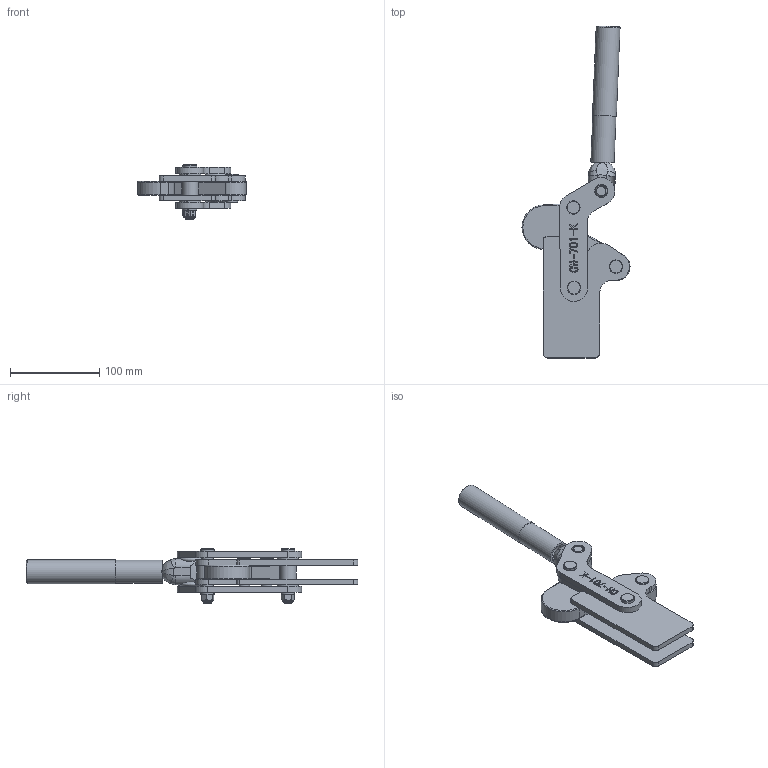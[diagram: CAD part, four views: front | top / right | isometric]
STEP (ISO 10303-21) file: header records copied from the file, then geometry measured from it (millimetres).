
FILE_DESCRIPTION(/* description */ ('STEP AP203'),/* implementation_level */ '2;1');
FILE_NAME(/* name */ 'D:\Vault_2016\Projekty\NASZ KATALOG\CLAMPTEK\STRONA\Heavy duty weldables\CH-701-K\CH-701-K_ZAMKNIETY.stp',/* time_stamp */ '2019-01-14T14:04:40+01:00',/* author */ ('CADENGINEERING4'),/* organization */ ('Î¢ÈíÖÐ¹ú'),/* preprocessor_version */ 'ST-DEVELOPER v17.2',/* originating_system */ 'Autodesk Inventor 2019',/* authorisation */ '');
FILE_SCHEMA (('AUTOMOTIVE_DESIGN { 1 0 10303 214 3 1 1 }'));
Length unit declared in the file: millimetre
Products named in the file (14): CH-701-K_ZAMKNIETY; 702-K-08_Ä¬ÈÏ; 702-K-03_Ä¬ÈÏ; 702-K-06_Ä¬ÈÏ; 702-K-10_Ä¬ÈÏ; 702-K-12_Ä¬ÈÏ; 702-K-13_Ä¬ÈÏ; 702-K-14_Ä¬ÈÏ; 701-K-04_Ä¬ÈÏ; 702-K-15_Ä¬ÈÏ; 702-K-09_Ä¬ÈÏ; 702-K-05_Ä¬ÈÏ; 702-K-07_Ä¬ÈÏ; 701-K-01_Ä¬ÈÏ
Assembly tree (19 placements, depth 2):
  CH-701-K_ZAMKNIETY
    702-K-08_Ä¬ÈÏ
    702-K-03_Ä¬ÈÏ
    702-K-06_Ä¬ÈÏ  x2
    702-K-14_Ä¬ÈÏ  x2
    702-K-15_Ä¬ÈÏ  x2
    702-K-12_Ä¬ÈÏ  x2
    702-K-13_Ä¬ÈÏ  x2
    702-K-10_Ä¬ÈÏ
    702-K-07_Ä¬ÈÏ  x2
    701-K-04_Ä¬ÈÏ
    702-K-09_Ä¬ÈÏ
    702-K-05_Ä¬ÈÏ
    701-K-01_Ä¬ÈÏ
Bounding box: 120.95 x 371.66 x 61 mm (x, y, z)
Volume: 343070.5 mm3; surface area: 139238.2 mm2
Topology: 23 solids, 23 shells, 2194 faces, 6437 edges, 4316 vertices
Faces by surface type: plane 1439, cylinder 659, cone 50, bspline 32, torus 14
Full cylindrical faces by diameter (mm): 8.373 x2, 8.5 x8, 9.5 x2, 12 x2, 12.47 x4, 12.5 x12, 12.7 x4, 14.5 x2, 15 x4, 17 x6, 17.08 x2, 17.1 x2, 17.2 x1, 18.4 x1, 21.25 x1, 21.26 x1, 24.4 x1, 26 x1, 26.75 x1
Entity records: 51488 total; most frequent: CARTESIAN_POINT 12246, DIRECTION 8300, ORIENTED_EDGE 8222, EDGE_CURVE 4111, AXIS2_PLACEMENT_3D 2866, VERTEX_POINT 2761, LINE 2568, VECTOR 2568
